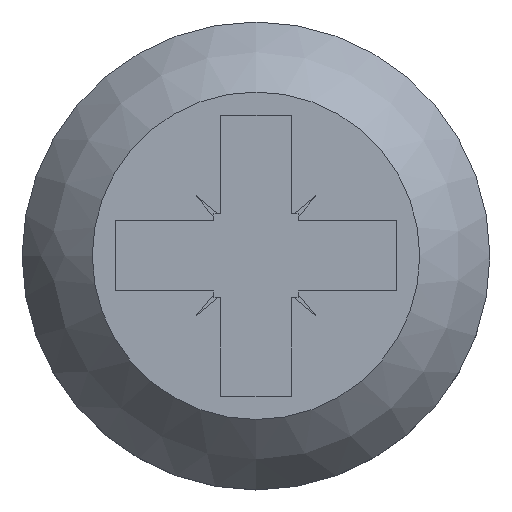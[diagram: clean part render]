
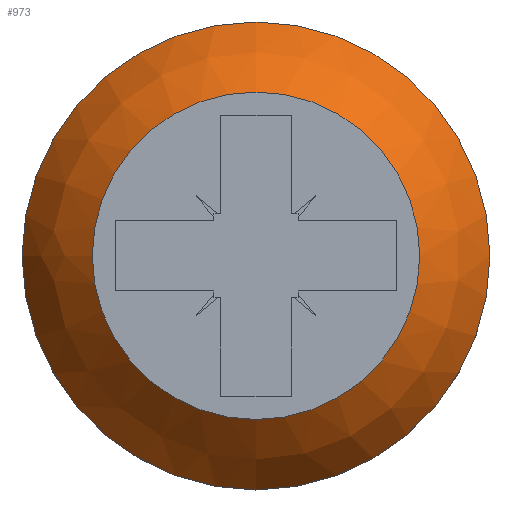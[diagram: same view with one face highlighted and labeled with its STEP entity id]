
A CAD part, top view. The second image highlights one B-rep face of the part: STEP entity #973.
In plain terms, the highlighted spherical face has radius 2.948 mm.
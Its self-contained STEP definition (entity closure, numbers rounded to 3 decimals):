
#16=SPHERICAL_SURFACE('',#1043,2.948);
#105=FACE_OUTER_BOUND('',#156,.T.);
#156=EDGE_LOOP('',(#897,#898,#899,#900,#901));
#167=CIRCLE('',#1042,1.855);
#168=CIRCLE('',#1044,2.948);
#169=CIRCLE('',#1045,2.65);
#170=CIRCLE('',#1046,2.65);
#494=VERTEX_POINT('',#4406);
#495=VERTEX_POINT('',#4409);
#496=VERTEX_POINT('',#4411);
#631=EDGE_CURVE('',#494,#494,#167,.T.);
#632=EDGE_CURVE('',#494,#495,#168,.T.);
#633=EDGE_CURVE('',#496,#495,#169,.T.);
#634=EDGE_CURVE('',#495,#496,#170,.T.);
#897=ORIENTED_EDGE('',*,*,#631,.T.);
#898=ORIENTED_EDGE('',*,*,#632,.T.);
#899=ORIENTED_EDGE('',*,*,#633,.F.);
#900=ORIENTED_EDGE('',*,*,#634,.F.);
#901=ORIENTED_EDGE('',*,*,#632,.F.);
#973=ADVANCED_FACE('',(#105),#16,.T.);
#1042=AXIS2_PLACEMENT_3D('',#4407,#1258,#1259);
#1043=AXIS2_PLACEMENT_3D('',#4408,#1260,#1261);
#1044=AXIS2_PLACEMENT_3D('',#4410,#1262,#1263);
#1045=AXIS2_PLACEMENT_3D('',#4412,#1264,#1265);
#1046=AXIS2_PLACEMENT_3D('',#4413,#1266,#1267);
#1258=DIRECTION('center_axis',(0.,0.,-1.));
#1259=DIRECTION('ref_axis',(1.,0.,0.));
#1260=DIRECTION('center_axis',(0.,0.,1.));
#1261=DIRECTION('ref_axis',(1.,0.,0.));
#1262=DIRECTION('center_axis',(0.,-1.,0.));
#1263=DIRECTION('ref_axis',(-1.,0.,0.));
#1264=DIRECTION('center_axis',(0.,0.,-1.));
#1265=DIRECTION('ref_axis',(1.,0.,0.));
#1266=DIRECTION('center_axis',(0.,0.,-1.));
#1267=DIRECTION('ref_axis',(1.,0.,0.));
#4406=CARTESIAN_POINT('',(-1.855,0.,6.));
#4407=CARTESIAN_POINT('Origin',(0.,0.,6.));
#4408=CARTESIAN_POINT('Origin',(0.,0.,3.709));
#4409=CARTESIAN_POINT('',(-2.65,0.,5.));
#4410=CARTESIAN_POINT('Origin',(0.,0.,3.709));
#4411=CARTESIAN_POINT('',(0.,-2.65,5.));
#4412=CARTESIAN_POINT('Origin',(0.,0.,5.));
#4413=CARTESIAN_POINT('Origin',(0.,0.,5.));
